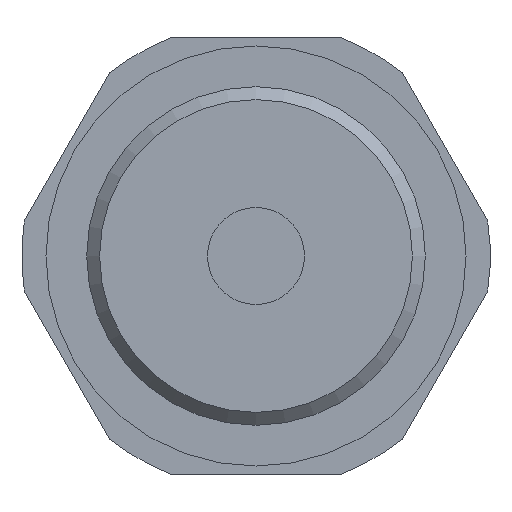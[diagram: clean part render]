
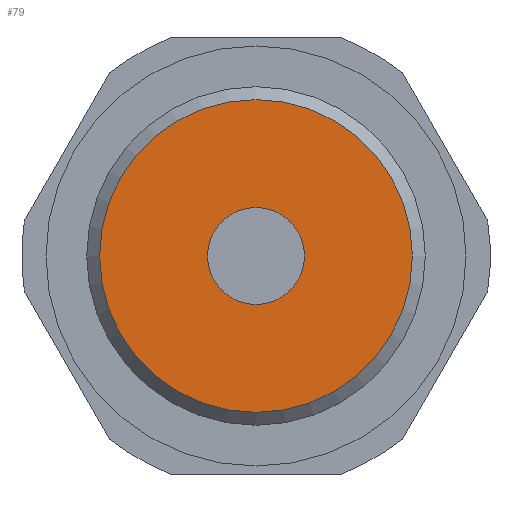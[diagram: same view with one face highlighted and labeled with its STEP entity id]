
A CAD part, front view. The second image highlights one B-rep face of the part: STEP entity #79.
In plain terms, the highlighted planar face has unit normal (0, -1, 0).
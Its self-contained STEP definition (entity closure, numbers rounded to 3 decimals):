
#79 = ADVANCED_FACE( '', ( #117, #118 ), #119, .F. );
#117 = FACE_BOUND( '', #193, .T. );
#118 = FACE_OUTER_BOUND( '', #194, .T. );
#119 = PLANE( '', #195 );
#193 = EDGE_LOOP( '', ( #284 ) );
#194 = EDGE_LOOP( '', ( #285 ) );
#195 = AXIS2_PLACEMENT_3D( '', #286, #287, #288 );
#284 = ORIENTED_EDGE( '', *, *, #485, .F. );
#285 = ORIENTED_EDGE( '', *, *, #486, .T. );
#286 = CARTESIAN_POINT( '', ( 9.678, -8., 0. ) );
#287 = DIRECTION( '', ( 0., 1., 0. ) );
#288 = DIRECTION( '', ( 0., 0., 1. ) );
#485 = EDGE_CURVE( '', #553, #553, #554, .T. );
#486 = EDGE_CURVE( '', #555, #555, #556, .T. );
#553 = VERTEX_POINT( '', #665 );
#554 = CIRCLE( '', #666, 3. );
#555 = VERTEX_POINT( '', #667 );
#556 = CIRCLE( '', #668, 9.678 );
#665 = CARTESIAN_POINT( '', ( 0., -8., -3. ) );
#666 = AXIS2_PLACEMENT_3D( '', #811, #812, #813 );
#667 = CARTESIAN_POINT( '', ( 0., -8., -9.678 ) );
#668 = AXIS2_PLACEMENT_3D( '', #814, #815, #816 );
#811 = CARTESIAN_POINT( '', ( 0., -8., 0. ) );
#812 = DIRECTION( '', ( 0., -1., 0. ) );
#813 = DIRECTION( '', ( 0., 0., -1. ) );
#814 = CARTESIAN_POINT( '', ( 0., -8., 0. ) );
#815 = DIRECTION( '', ( 0., -1., 0. ) );
#816 = DIRECTION( '', ( 0., 0., -1. ) );
